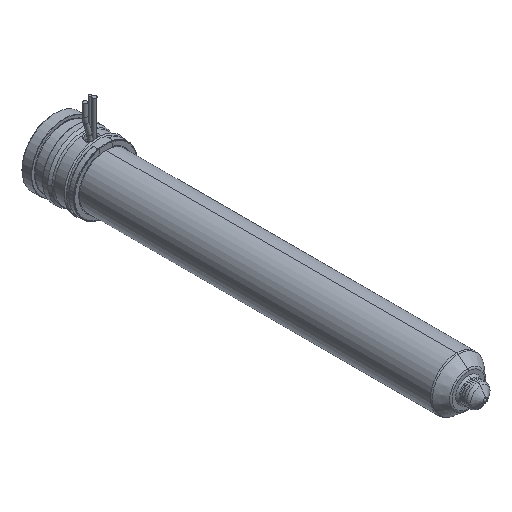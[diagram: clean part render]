
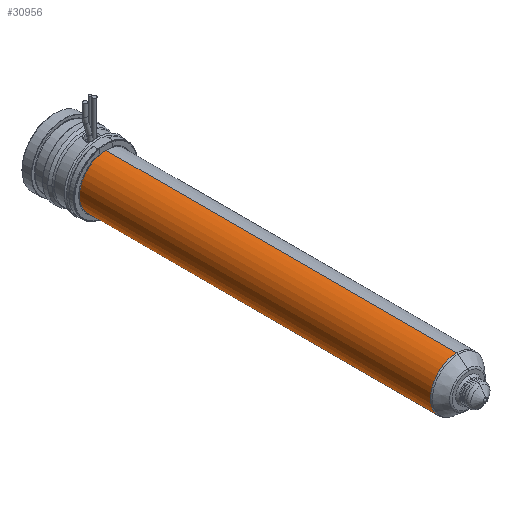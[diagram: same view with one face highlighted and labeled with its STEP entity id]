
A CAD part, isometric view. The second image highlights one B-rep face of the part: STEP entity #30956.
In plain terms, the highlighted cylindrical face has radius 12 mm (diameter 24 mm), a partial arc.
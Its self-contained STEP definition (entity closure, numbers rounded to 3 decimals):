
#30441=CARTESIAN_POINT('',(0.,-24.,0.));
#30442=DIRECTION('',(0.,1.,0.));
#30443=DIRECTION('',(0.,0.,-1.));
#30444=AXIS2_PLACEMENT_3D('',#30441,#30442,#30443);
#30449=DIRECTION('',(0.,1.,0.));
#30450=VECTOR('',#30449,159.736);
#30451=CARTESIAN_POINT('',(0.,-183.736,12.));
#30452=LINE('',#30451,#30450);
#30464=DIRECTION('',(0.,1.,0.));
#30465=VECTOR('',#30464,159.736);
#30466=CARTESIAN_POINT('',(0.,-183.736,-12.));
#30467=LINE('',#30466,#30465);
#30495=CARTESIAN_POINT('',(0.,-183.736,0.));
#30496=DIRECTION('',(0.,-1.,0.));
#30497=DIRECTION('',(0.,0.,1.));
#30498=AXIS2_PLACEMENT_3D('',#30495,#30496,#30497);
#30825=CARTESIAN_POINT('',(0.,-183.736,12.));
#30826=CARTESIAN_POINT('',(0.,-24.,12.));
#30827=VERTEX_POINT('',#30825);
#30828=VERTEX_POINT('',#30826);
#30829=CARTESIAN_POINT('',(0.,-183.736,-12.));
#30830=CARTESIAN_POINT('',(0.,-24.,-12.));
#30831=VERTEX_POINT('',#30829);
#30832=VERTEX_POINT('',#30830);
#30942=CARTESIAN_POINT('',(0.,-11.125,0.));
#30943=DIRECTION('',(0.,-1.,0.));
#30944=DIRECTION('',(0.,0.,1.));
#30945=AXIS2_PLACEMENT_3D('',#30942,#30943,#30944);
#30946=CYLINDRICAL_SURFACE('',#30945,12.);
#30948=ORIENTED_EDGE('',*,*,#30947,.F.);
#30950=ORIENTED_EDGE('',*,*,#30949,.T.);
#30952=ORIENTED_EDGE('',*,*,#30951,.T.);
#30953=ORIENTED_EDGE('',*,*,#30935,.T.);
#30954=EDGE_LOOP('',(#30948,#30950,#30952,#30953));
#30955=FACE_OUTER_BOUND('',#30954,.F.);
#30956=ADVANCED_FACE('',(#30955),#30946,.T.);
#30445=CIRCLE('',#30444,12.);
#30499=CIRCLE('',#30498,12.);
#30935=EDGE_CURVE('',#30832,#30828,#30445,.T.);
#30947=EDGE_CURVE('',#30827,#30828,#30452,.T.);
#30949=EDGE_CURVE('',#30827,#30831,#30499,.T.);
#30951=EDGE_CURVE('',#30831,#30832,#30467,.T.);
